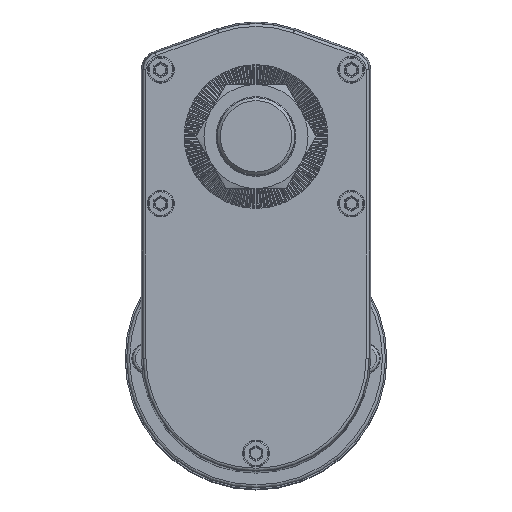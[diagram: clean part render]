
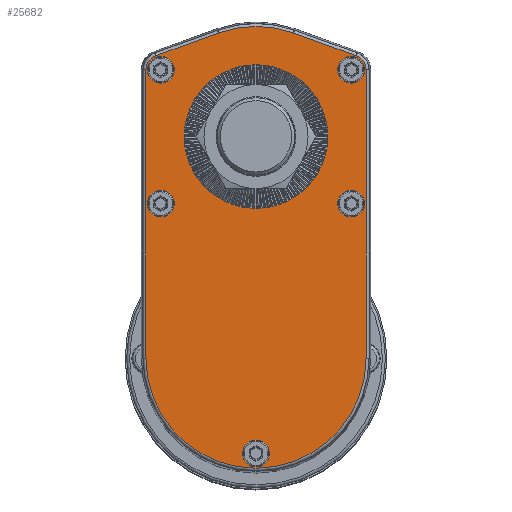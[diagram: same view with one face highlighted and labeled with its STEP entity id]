
A CAD part, top view. The second image highlights one B-rep face of the part: STEP entity #25682.
In plain terms, the highlighted planar face has unit normal (0, 0, 1).
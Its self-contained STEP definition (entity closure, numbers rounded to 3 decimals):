
#110 = PLANE ( 'NONE',  #21142 ) ;
#471 = FACE_BOUND ( 'NONE', #6832, .T. ) ;
#601 = CARTESIAN_POINT ( 'NONE',  ( -37.012, -74.495, 40. ) ) ;
#762 = CARTESIAN_POINT ( 'NONE',  ( 0., 0., 40. ) ) ;
#938 = DIRECTION ( 'NONE',  ( 0., -1., 0. ) ) ;
#1186 = CARTESIAN_POINT ( 'NONE',  ( -32., -22.54, 40. ) ) ;
#1237 = CIRCLE ( 'NONE', #14753, 4.5 ) ;
#1313 = FACE_OUTER_BOUND ( 'NONE', #13703, .T. ) ;
#1977 = VECTOR ( 'NONE', #17549, 1000. ) ;
#2265 = AXIS2_PLACEMENT_3D ( 'NONE', #29726, #14154, #32383 ) ;
#2379 = CARTESIAN_POINT ( 'NONE',  ( -33.701, 27.179, 40. ) ) ;
#2657 = EDGE_LOOP ( 'NONE', ( #19708 ) ) ;
#2743 = EDGE_CURVE ( 'NONE', #4079, #6640, #31725, .T. ) ;
#2746 = DIRECTION ( 'NONE',  ( -1., 0., 0. ) ) ;
#2791 = LINE ( 'NONE', #12426, #1977 ) ;
#2999 = AXIS2_PLACEMENT_3D ( 'NONE', #21135, #5505, #23739 ) ;
#3283 = CARTESIAN_POINT ( 'NONE',  ( -31.995, 22.46, 40. ) ) ;
#3392 = DIRECTION ( 'NONE',  ( -1., 0., 0. ) ) ;
#3413 = VERTEX_POINT ( 'NONE', #9862 ) ;
#3658 = VERTEX_POINT ( 'NONE', #18478 ) ;
#3814 = DIRECTION ( 'NONE',  ( 1., 0., 0. ) ) ;
#4061 = CARTESIAN_POINT ( 'NONE',  ( 33.701, 27.179, 40. ) ) ;
#4079 = VERTEX_POINT ( 'NONE', #7704 ) ;
#4763 = CARTESIAN_POINT ( 'NONE',  ( -24.1, 0., 40. ) ) ;
#5030 = VERTEX_POINT ( 'NONE', #15236 ) ;
#5083 = DIRECTION ( 'NONE',  ( 0., 0., 1. ) ) ;
#5505 = DIRECTION ( 'NONE',  ( 0., 0., 1. ) ) ;
#5537 = CIRCLE ( 'NONE', #23136, 4.5 ) ;
#5911 = DIRECTION ( 'NONE',  ( -1., 0., 0. ) ) ;
#6606 = FACE_BOUND ( 'NONE', #2657, .T. ) ;
#6640 = VERTEX_POINT ( 'NONE', #7348 ) ;
#6832 = EDGE_LOOP ( 'NONE', ( #22250 ) ) ;
#6921 = AXIS2_PLACEMENT_3D ( 'NONE', #26165, #10554, #28742 ) ;
#7348 = CARTESIAN_POINT ( 'NONE',  ( 37.012, 22.46, 40. ) ) ;
#7704 = CARTESIAN_POINT ( 'NONE',  ( 37.012, -74.495, 40. ) ) ;
#7761 = CARTESIAN_POINT ( 'NONE',  ( 0., 0., 40. ) ) ;
#8257 = VERTEX_POINT ( 'NONE', #28499 ) ;
#8685 = VERTEX_POINT ( 'NONE', #4763 ) ;
#9199 = CIRCLE ( 'NONE', #22420, 24.1 ) ;
#9412 = DIRECTION ( 'NONE',  ( -0.94, 0.34, 0. ) ) ;
#9862 = CARTESIAN_POINT ( 'NONE',  ( -27.5, 22.46, 40. ) ) ;
#10088 = CARTESIAN_POINT ( 'NONE',  ( -27.5, -22.54, 40. ) ) ;
#10254 = CARTESIAN_POINT ( 'NONE',  ( 0., -74.495, 40. ) ) ;
#10308 = CARTESIAN_POINT ( 'NONE',  ( 4.5, -106.54, 40. ) ) ;
#10334 = AXIS2_PLACEMENT_3D ( 'NONE', #7761, #25999, #10380 ) ;
#10380 = DIRECTION ( 'NONE',  ( -1., 0., 0. ) ) ;
#10554 = DIRECTION ( 'NONE',  ( 0., 0., 1. ) ) ;
#10883 = AXIS2_PLACEMENT_3D ( 'NONE', #30890, #15319, #33490 ) ;
#11210 = EDGE_CURVE ( 'NONE', #3413, #3413, #16264, .T. ) ;
#11616 = VECTOR ( 'NONE', #938, 1000. ) ;
#12426 = CARTESIAN_POINT ( 'NONE',  ( -33.701, 27.179, 40. ) ) ;
#12818 = EDGE_CURVE ( 'NONE', #6640, #12857, #21105, .T. ) ;
#12857 = VERTEX_POINT ( 'NONE', #4061 ) ;
#12903 = DIRECTION ( 'NONE',  ( -1., 0., 0. ) ) ;
#13095 = EDGE_CURVE ( 'NONE', #14994, #3658, #28355, .T. ) ;
#13166 = VERTEX_POINT ( 'NONE', #23112 ) ;
#13493 = FACE_BOUND ( 'NONE', #15200, .T. ) ;
#13703 = EDGE_LOOP ( 'NONE', ( #30633, #29744, #27682, #26944, #26219, #24972, #24143, #23401 ) ) ;
#13709 = EDGE_CURVE ( 'NONE', #8685, #8685, #9199, .T. ) ;
#14130 = EDGE_CURVE ( 'NONE', #5030, #4079, #27129, .T. ) ;
#14154 = DIRECTION ( 'NONE',  ( 0., 0., 1. ) ) ;
#14753 = AXIS2_PLACEMENT_3D ( 'NONE', #1186, #19411, #3814 ) ;
#14994 = VERTEX_POINT ( 'NONE', #26128 ) ;
#15180 = VERTEX_POINT ( 'NONE', #10308 ) ;
#15200 = EDGE_LOOP ( 'NONE', ( #21659 ) ) ;
#15236 = CARTESIAN_POINT ( 'NONE',  ( -37.012, -74.495, 40. ) ) ;
#15319 = DIRECTION ( 'NONE',  ( 0., 0., 1. ) ) ;
#15733 = CARTESIAN_POINT ( 'NONE',  ( 0., 0., 40. ) ) ;
#15825 = CIRCLE ( 'NONE', #22663, 5.017 ) ;
#15962 = EDGE_LOOP ( 'NONE', ( #20871 ) ) ;
#16072 = CARTESIAN_POINT ( 'NONE',  ( 37.012, 22.46, 40. ) ) ;
#16264 = CIRCLE ( 'NONE', #2999, 4.5 ) ;
#16297 = DIRECTION ( 'NONE',  ( 0., 1., 0. ) ) ;
#17549 = DIRECTION ( 'NONE',  ( -0.94, -0.34, 0. ) ) ;
#18131 = VERTEX_POINT ( 'NONE', #18247 ) ;
#18247 = CARTESIAN_POINT ( 'NONE',  ( -37.012, 22.46, 40. ) ) ;
#18356 = DIRECTION ( 'NONE',  ( 0., 0., -1. ) ) ;
#18478 = CARTESIAN_POINT ( 'NONE',  ( -12.586, 34.812, 40. ) ) ;
#18485 = EDGE_CURVE ( 'NONE', #13166, #13166, #26498, .T. ) ;
#18548 = ORIENTED_EDGE ( 'NONE', *, *, #11210, .F. ) ;
#19000 = EDGE_LOOP ( 'NONE', ( #19208 ) ) ;
#19009 = DIRECTION ( 'NONE',  ( 0., 0., 1. ) ) ;
#19208 = ORIENTED_EDGE ( 'NONE', *, *, #19247, .F. ) ;
#19247 = EDGE_CURVE ( 'NONE', #26214, #26214, #1237, .T. ) ;
#19406 = CIRCLE ( 'NONE', #10883, 4.5 ) ;
#19411 = DIRECTION ( 'NONE',  ( 0., 0., 1. ) ) ;
#19708 = ORIENTED_EDGE ( 'NONE', *, *, #32497, .F. ) ;
#20436 = EDGE_CURVE ( 'NONE', #3658, #32269, #2791, .T. ) ;
#20703 = CARTESIAN_POINT ( 'NONE',  ( 32., 22.46, 40. ) ) ;
#20871 = ORIENTED_EDGE ( 'NONE', *, *, #18485, .F. ) ;
#21105 = CIRCLE ( 'NONE', #2265, 5.017 ) ;
#21135 = CARTESIAN_POINT ( 'NONE',  ( -32., 22.46, 40. ) ) ;
#21142 = AXIS2_PLACEMENT_3D ( 'NONE', #15733, #18356, #2746 ) ;
#21541 = DIRECTION ( 'NONE',  ( 0., 0., 1. ) ) ;
#21659 = ORIENTED_EDGE ( 'NONE', *, *, #32522, .F. ) ;
#22250 = ORIENTED_EDGE ( 'NONE', *, *, #13709, .F. ) ;
#22420 = AXIS2_PLACEMENT_3D ( 'NONE', #762, #19009, #3392 ) ;
#22663 = AXIS2_PLACEMENT_3D ( 'NONE', #3283, #21541, #5911 ) ;
#23112 = CARTESIAN_POINT ( 'NONE',  ( 27.5, -22.54, 40. ) ) ;
#23136 = AXIS2_PLACEMENT_3D ( 'NONE', #20703, #5083, #23320 ) ;
#23320 = DIRECTION ( 'NONE',  ( -1., 0., 0. ) ) ;
#23373 = VECTOR ( 'NONE', #9412, 1000. ) ;
#23401 = ORIENTED_EDGE ( 'NONE', *, *, #30479, .T. ) ;
#23523 = EDGE_LOOP ( 'NONE', ( #18548 ) ) ;
#23739 = DIRECTION ( 'NONE',  ( 1., 0., 0. ) ) ;
#24143 = ORIENTED_EDGE ( 'NONE', *, *, #20436, .T. ) ;
#24180 = LINE ( 'NONE', #27645, #23373 ) ;
#24575 = AXIS2_PLACEMENT_3D ( 'NONE', #10254, #28448, #12903 ) ;
#24654 = EDGE_CURVE ( 'NONE', #12857, #14994, #24180, .T. ) ;
#24972 = ORIENTED_EDGE ( 'NONE', *, *, #13095, .T. ) ;
#25487 = LINE ( 'NONE', #601, #11616 ) ;
#25654 = VECTOR ( 'NONE', #16297, 1000. ) ;
#25682 = ADVANCED_FACE ( 'NONE', ( #1313, #471, #13493, #27368, #6606, #33427, #26560 ), #110, .F. ) ;
#25999 = DIRECTION ( 'NONE',  ( 0., 0., 1. ) ) ;
#26128 = CARTESIAN_POINT ( 'NONE',  ( 12.586, 34.812, 40. ) ) ;
#26165 = CARTESIAN_POINT ( 'NONE',  ( 32., -22.54, 40. ) ) ;
#26214 = VERTEX_POINT ( 'NONE', #10088 ) ;
#26219 = ORIENTED_EDGE ( 'NONE', *, *, #24654, .T. ) ;
#26498 = CIRCLE ( 'NONE', #6921, 4.5 ) ;
#26560 = FACE_BOUND ( 'NONE', #23523, .T. ) ;
#26944 = ORIENTED_EDGE ( 'NONE', *, *, #12818, .T. ) ;
#27129 = CIRCLE ( 'NONE', #24575, 37.012 ) ;
#27368 = FACE_BOUND ( 'NONE', #15962, .T. ) ;
#27645 = CARTESIAN_POINT ( 'NONE',  ( 12.586, 34.812, 40. ) ) ;
#27682 = ORIENTED_EDGE ( 'NONE', *, *, #2743, .T. ) ;
#28355 = CIRCLE ( 'NONE', #10334, 37.017 ) ;
#28448 = DIRECTION ( 'NONE',  ( 0., 0., 1. ) ) ;
#28499 = CARTESIAN_POINT ( 'NONE',  ( 27.5, 22.46, 40. ) ) ;
#28742 = DIRECTION ( 'NONE',  ( -1., 0., 0. ) ) ;
#29726 = CARTESIAN_POINT ( 'NONE',  ( 31.995, 22.46, 40. ) ) ;
#29744 = ORIENTED_EDGE ( 'NONE', *, *, #14130, .T. ) ;
#30479 = EDGE_CURVE ( 'NONE', #32269, #18131, #15825, .T. ) ;
#30633 = ORIENTED_EDGE ( 'NONE', *, *, #33072, .T. ) ;
#30890 = CARTESIAN_POINT ( 'NONE',  ( 0., -106.54, 40. ) ) ;
#31725 = LINE ( 'NONE', #16072, #25654 ) ;
#32269 = VERTEX_POINT ( 'NONE', #2379 ) ;
#32383 = DIRECTION ( 'NONE',  ( -1., 0., 0. ) ) ;
#32497 = EDGE_CURVE ( 'NONE', #15180, #15180, #19406, .T. ) ;
#32522 = EDGE_CURVE ( 'NONE', #8257, #8257, #5537, .T. ) ;
#33072 = EDGE_CURVE ( 'NONE', #18131, #5030, #25487, .T. ) ;
#33427 = FACE_BOUND ( 'NONE', #19000, .T. ) ;
#33490 = DIRECTION ( 'NONE',  ( 1., 0., 0. ) ) ;
